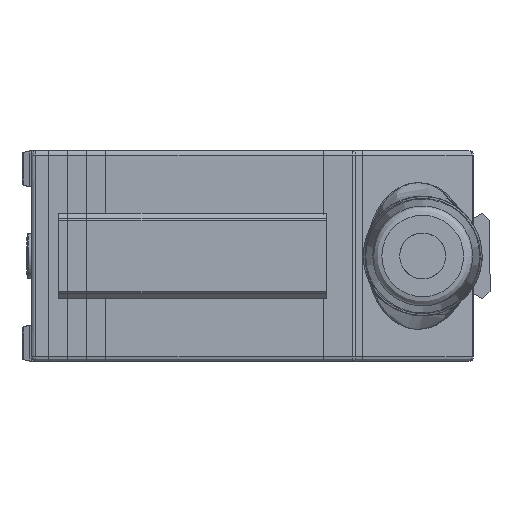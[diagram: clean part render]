
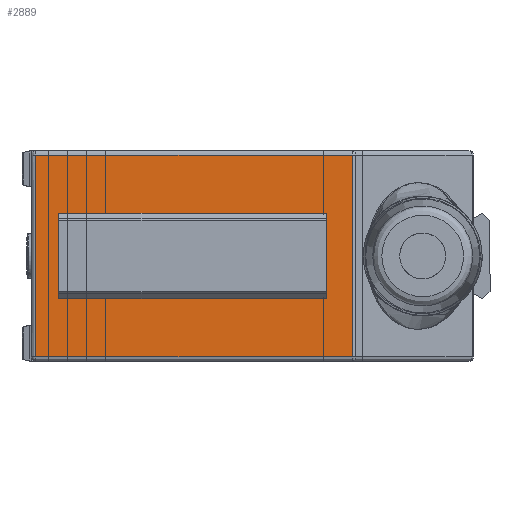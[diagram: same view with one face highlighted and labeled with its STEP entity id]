
A CAD part, left-side view. The second image highlights one B-rep face of the part: STEP entity #2889.
In plain terms, the highlighted planar face has unit normal (-1, 0, 0).
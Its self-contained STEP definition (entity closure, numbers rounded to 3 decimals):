
#127=FACE_BOUND('',#546,.T.);
#368=FACE_OUTER_BOUND('',#545,.T.);
#545=EDGE_LOOP('',(#2104,#2105,#2106,#2107));
#546=EDGE_LOOP('',(#2108,#2109,#2110,#2111));
#733=LINE('',#4363,#965);
#735=LINE('',#4367,#967);
#737=LINE('',#4371,#969);
#739=LINE('',#4374,#971);
#740=LINE('',#4380,#972);
#743=LINE('',#4394,#975);
#796=LINE('',#4523,#1028);
#797=LINE('',#4524,#1029);
#965=VECTOR('',#3548,8.2);
#967=VECTOR('',#3552,29.2);
#969=VECTOR('',#3556,8.2);
#971=VECTOR('',#3560,29.2);
#972=VECTOR('',#3565,22.);
#975=VECTOR('',#3578,22.);
#1028=VECTOR('',#3711,34.493);
#1029=VECTOR('',#3712,34.493);
#1202=VERTEX_POINT('',#4360);
#1203=VERTEX_POINT('',#4362);
#1204=VERTEX_POINT('',#4366);
#1205=VERTEX_POINT('',#4370);
#1206=VERTEX_POINT('',#4376);
#1208=VERTEX_POINT('',#4379);
#1212=VERTEX_POINT('',#4388);
#1214=VERTEX_POINT('',#4392);
#1484=EDGE_CURVE('',#1202,#1203,#733,.T.);
#1486=EDGE_CURVE('',#1204,#1203,#735,.T.);
#1488=EDGE_CURVE('',#1205,#1204,#737,.T.);
#1490=EDGE_CURVE('',#1202,#1205,#739,.T.);
#1492=EDGE_CURVE('',#1206,#1208,#740,.T.);
#1499=EDGE_CURVE('',#1214,#1212,#743,.T.);
#1564=EDGE_CURVE('',#1212,#1206,#796,.T.);
#1565=EDGE_CURVE('',#1208,#1214,#797,.T.);
#2104=ORIENTED_EDGE('',*,*,#1492,.F.);
#2105=ORIENTED_EDGE('',*,*,#1564,.F.);
#2106=ORIENTED_EDGE('',*,*,#1499,.F.);
#2107=ORIENTED_EDGE('',*,*,#1565,.F.);
#2108=ORIENTED_EDGE('',*,*,#1490,.T.);
#2109=ORIENTED_EDGE('',*,*,#1488,.T.);
#2110=ORIENTED_EDGE('',*,*,#1486,.T.);
#2111=ORIENTED_EDGE('',*,*,#1484,.F.);
#2598=PLANE('',#3141);
#2889=ADVANCED_FACE('',(#368,#127),#2598,.T.);
#3141=AXIS2_PLACEMENT_3D('',#4522,#3709,#3710);
#3548=DIRECTION('',(0.,0.,-1.));
#3552=DIRECTION('',(0.,1.,0.));
#3556=DIRECTION('',(0.,0.,-1.));
#3560=DIRECTION('',(0.,-1.,0.));
#3565=DIRECTION('',(0.,0.,1.));
#3578=DIRECTION('',(0.,0.,-1.));
#3709=DIRECTION('center_axis',(-1.,0.,0.));
#3710=DIRECTION('ref_axis',(0.,0.,
1.));
#3711=DIRECTION('',(0.,1.,0.));
#3712=DIRECTION('',(0.,-1.,0.));
#4360=CARTESIAN_POINT('',(-42.3,45.2,4.1));
#4362=CARTESIAN_POINT('',(-42.3,45.2,-4.1));
#4363=CARTESIAN_POINT('',(-42.3,45.2,4.1));
#4366=CARTESIAN_POINT('',(-42.3,16.,-4.1));
#4367=CARTESIAN_POINT('',(-42.3,16.,-4.1));
#4370=CARTESIAN_POINT('',(-42.3,16.,4.1));
#4371=CARTESIAN_POINT('',(-42.3,16.,4.1));
#4374=CARTESIAN_POINT('',(-42.3,45.2,4.1));
#4376=CARTESIAN_POINT('',(-42.3,47.7,-11.));
#4379=CARTESIAN_POINT('',(-42.3,47.7,11.));
#4380=CARTESIAN_POINT('',(-42.3,47.7,-11.));
#4388=CARTESIAN_POINT('',(-42.3,13.207,-11.));
#4392=CARTESIAN_POINT('',(-42.3,13.207,11.));
#4394=CARTESIAN_POINT('',(-42.3,13.207,11.));
#4522=CARTESIAN_POINT('Origin',(-42.3,48.2,11.5));
#4523=CARTESIAN_POINT('',(-42.3,13.207,-11.));
#4524=CARTESIAN_POINT('',(-42.3,47.7,11.));
